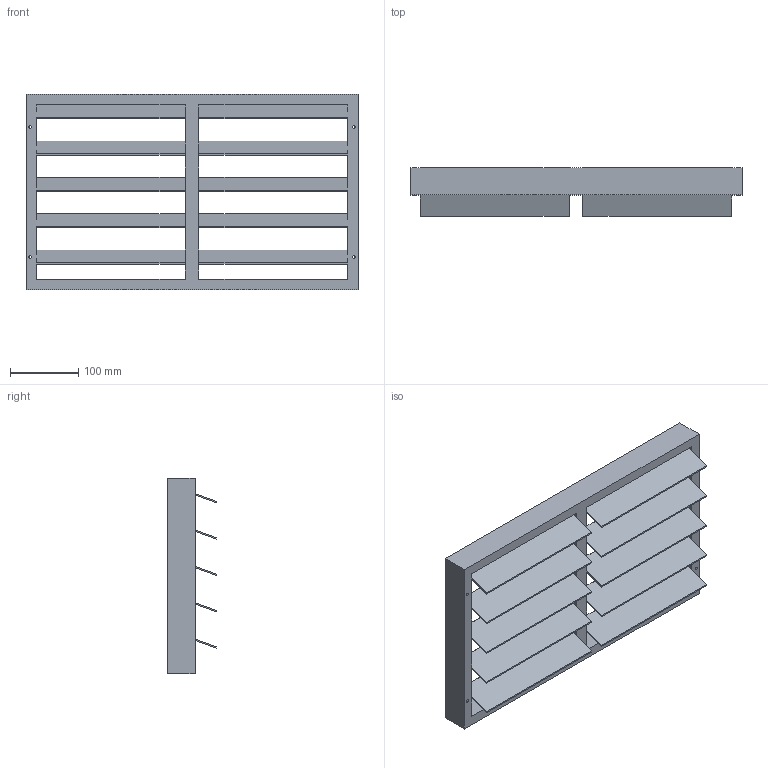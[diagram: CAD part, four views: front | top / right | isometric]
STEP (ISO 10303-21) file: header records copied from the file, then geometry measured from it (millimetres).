
FILE_DESCRIPTION(/* description */ (''),/* implementation_level */ '2;1');
FILE_NAME(/* name */ 'Z:\Output\VK_40-20-00874-001.stp',/* time_stamp */ '2017-09-29T10:34:48+02:00',/* author */ ('pareshmistry'),/* organization */ (''),/* preprocessor_version */ 'ST-DEVELOPER v16.5',/* originating_system */ 'Autodesk Inventor 2017',/* authorisation */ '');
FILE_SCHEMA (('AUTOMOTIVE_DESIGN { 1 0 10303 214 3 1 1 }'));
Length unit declared in the file: millimetre
Products named in the file (1): VK-2
Bounding box: 485 x 71 x 285 mm (x, y, z)
Volume: 1311839.4 mm3; surface area: 438937.9 mm2
Topology: 1 solids, 1 shells, 84 faces, 256 edges, 156 vertices
Faces by surface type: plane 80, cylinder 4
Full cylindrical faces by diameter (mm): 4 x4
Entity records: 2794 total; most frequent: ORIENTED_EDGE 500, CARTESIAN_POINT 485, DIRECTION 426, EDGE_CURVE 248, LINE 240, VECTOR 240, VERTEX_POINT 152, EDGE_LOOP 100
